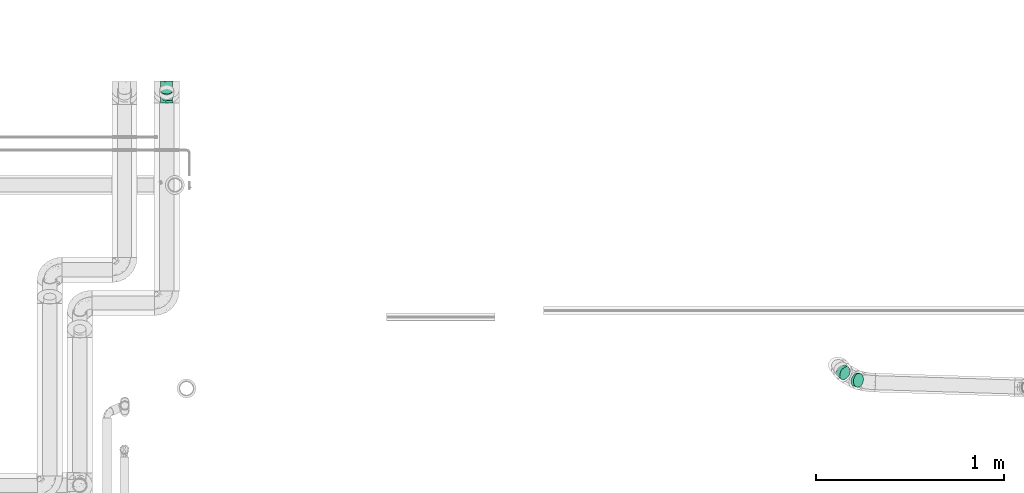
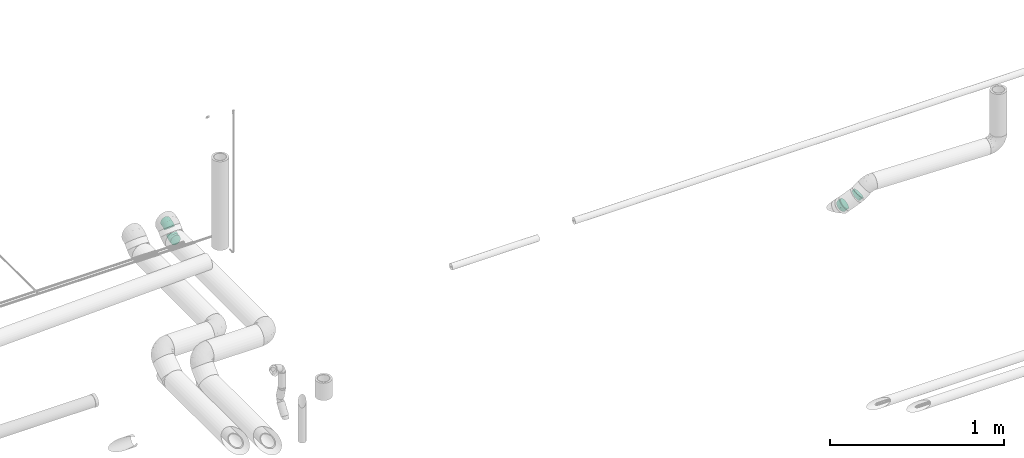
# One storey, part 139 of 156: 4 flow fittings.
"""IFC2X3 building model written with IfcOpenShell, lengths in millimetres."""

from ifc_helpers import new_model, entity, si_unit, converted_unit, derived_unit, direction, frame, origin_with_axes, place, context, subcontext, project, spatial, open_shell, surface_model, source, transform, mapped, type_object, element, save


model = new_model("IFC2X3")

# Units and contexts
model_context = context("Model", 3, precision=0.01, world=frame((0.0, 4.29681676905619e-09, 0.0)), true_north=direction((4.01073788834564e-13, 1.0)))
plan_context = context("Plan", 3, precision=0.01, world=frame((0.0, 4.29681676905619e-09, 0.0)), true_north=direction((4.01073788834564e-13, 1.0)))
body_context = subcontext(model_context, "Body", "Model", "MODEL_VIEW")
ifc_project = project(units=[converted_unit("PLANEANGLEUNIT", "DEGREE", entity("IfcPositiveLengthMeasure", 0.0174532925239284), si_unit("PLANEANGLEUNIT", "RADIAN"), dimensions=[0, 0, 0, 0, 0, 0, 0]), si_unit("AREAUNIT", "SQUARE_METRE"), si_unit("LENGTHUNIT", "METRE", prefix="MILLI"), si_unit("MASSUNIT", "GRAM", prefix="KILO"), si_unit("POWERUNIT", "WATT"), si_unit("PRESSUREUNIT", "PASCAL", prefix="KILO"), si_unit("FORCEUNIT", "NEWTON", prefix="KILO"), si_unit("ELECTRICVOLTAGEUNIT", "VOLT"), si_unit("ELECTRICCURRENTUNIT", "AMPERE"), si_unit("THERMODYNAMICTEMPERATUREUNIT", "DEGREE_CELSIUS"), si_unit("TIMEUNIT", "SECOND"), si_unit("VOLUMEUNIT", "CUBIC_METRE"), derived_unit("LINEARVELOCITYUNIT", [(si_unit("LENGTHUNIT", "METRE"), 1), (si_unit("TIMEUNIT", "SECOND"), -1)]), derived_unit("VOLUMETRICFLOWRATEUNIT", [(si_unit("VOLUMEUNIT", "CUBIC_METRE"), 1), (si_unit("TIMEUNIT", "SECOND"), -1)]), derived_unit("THERMALTRANSMITTANCEUNIT", [(si_unit("POWERUNIT", "WATT"), 1), (si_unit("THERMODYNAMICTEMPERATUREUNIT", "KELVIN"), -1), (si_unit("AREAUNIT", "SQUARE_METRE"), -1)]), derived_unit("SOUNDPRESSUREUNIT", [(si_unit("PRESSUREUNIT", "PASCAL"), 1)])], contexts=[model_context, plan_context])

# Site, building, storey
site_placement = place(None, frame((0.0, -4.29681676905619e-09, 0.0), z_axis=(0.0, 0.0, 1.0), x_axis=(1.0, 0.0, 0.0)))
site = spatial("IfcSite", under=ifc_project, at=site_placement, CompositionType="ELEMENT")
building_placement = place(site_placement, frame((0.0, 4.29681676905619e-09, 0.0), z_axis=(0.0, 0.0, 1.0), x_axis=(1.0, 0.0, 0.0)))
building = spatial("IfcBuilding", under=site, at=building_placement, Name="mc-building", CompositionType="ELEMENT")
storey_placement = place(building_placement, frame((0.0, 0.0, 205200.0), z_axis=(0.0, 0.0, 1.0), x_axis=(1.0, 0.0, 0.0)))
storey = spatial("IfcBuildingStorey", under=building, at=storey_placement, Name="Nivå D + 1,2 m", CompositionType="ELEMENT", Elevation=205200.0)

# Flow fittings
pipe_fitting_type = type_object("IfcPipeFittingType", Name="magi_pipe_elbow_short_001", PredefinedType="BEND")
shared_shape_1 = source(origin_with_axes(), body_context, "Body", "SurfaceModel", [
    surface_model("IfcShellBasedSurfaceModel", [(-9.17691, 18.75, -32.47595), (-9.17691, 9.70571, -36.22222), (-9.17691, 0.0, -37.5), (-9.17691, 26.5165, -26.5165), (-9.17691, 36.22222, -9.70571), (-9.17691, 32.47595, -18.75), (-9.17691, -26.5165, -26.5165), (-9.17691, -32.47595, -18.75), (-9.17691, -18.75, -32.47595), (-9.17691, -9.70571, -36.22222), (-9.17691, -36.22222, -9.70571), (-9.17691, -37.5, 0.0), (-9.17691, -36.22222, 9.70571), (-9.17691, 36.22222, 9.70571), (-9.17691, 37.5, 0.0), (-9.17691, 26.5165, 26.5165), (-9.17691, 32.47595, 18.75), (-9.17691, 9.70571, 36.22222), (-9.17691, 18.75, 32.47595), (-9.17691, 0.0, 37.5), (-9.17691, -32.47595, 18.75), (-9.17691, -26.5165, 26.5165), (-9.17691, -18.75, 32.47595), (-9.17691, -9.70571, 36.22222), (2.51284, 27.94685, -26.5165), (8.90618, 2.21263, -37.5), (6.56605, 11.63201, -36.22222), (4.38541, 20.40947, -32.47595), (1.07597, 33.73048, -18.75), (16.73639, -29.30523, -18.75), (-0.13537, 38.60631, 0.0), (11.2463, -7.20675, -36.22222), (15.29952, -23.5216, -26.5165), (13.42695, -15.98422, -32.47595), (17.94772, -34.18106, 0.0), (17.63964, -32.94098, -9.70571), (17.63964, -32.94098, 9.70571), (0.17272, 37.36623, -9.70571), (0.17272, 37.36623, 9.70571), (1.07597, 33.73048, 18.75), (2.51284, 27.94685, 26.5165), (4.38541, 20.40947, 32.47595), (6.56605, 11.63201, 36.22222), (15.29952, -23.5216, 26.5165), (16.73639, -29.30523, 18.75), (8.90618, 2.21263, 37.5), (11.2463, -7.20675, 36.22222), (13.42695, -15.98422, 32.47595), (-4.62242, 37.77761, 0.0), (4.48655, -36.66718, 0.0)], [open_shell([[[0, 1, 2]], [[3, 0, 2]], [[4, 5, 3]], [[6, 3, 2]], [[4, 3, 7]], [[8, 6, 9]], [[6, 2, 9]], [[10, 11, 7]], [[3, 6, 7]], [[7, 11, 12]], [[12, 4, 7]], [[13, 14, 15]], [[16, 13, 15]], [[17, 18, 15]], [[14, 17, 15]], [[19, 17, 14]], [[20, 21, 12]], [[22, 12, 21]], [[23, 19, 22]], [[12, 22, 19]], [[19, 14, 12]], [[4, 12, 14]], [[24, 25, 26]], [[24, 26, 27]], [[25, 28, 29]], [[28, 25, 24]], [[28, 30, 29]], [[31, 32, 33]], [[31, 25, 32]], [[29, 34, 35]], [[32, 25, 29]], [[29, 36, 34]], [[28, 37, 30]], [[30, 38, 39]], [[30, 39, 40]], [[41, 42, 30]], [[41, 30, 40]], [[42, 36, 29]], [[36, 43, 44]], [[43, 36, 45]], [[43, 46, 47]], [[46, 43, 45]], [[36, 42, 45]], [[42, 29, 30]], [[36, 20, 12]], [[47, 22, 21]], [[46, 23, 22]], [[45, 19, 23]], [[17, 19, 42]], [[43, 21, 20]], [[16, 15, 39]], [[18, 40, 15]], [[48, 13, 38]], [[48, 14, 13]], [[38, 13, 16]], [[41, 18, 17]], [[12, 11, 49]], [[47, 46, 22]], [[21, 43, 47]], [[46, 45, 23]], [[34, 36, 49]], [[20, 44, 43]], [[20, 36, 44]], [[39, 38, 16]], [[30, 48, 38]], [[41, 17, 42]], [[18, 41, 40]], [[39, 15, 40]], [[42, 19, 45]], [[12, 49, 36]], [[25, 2, 1]], [[31, 9, 2]], [[28, 3, 5]], [[3, 24, 0]], [[27, 1, 0]], [[4, 37, 5]], [[49, 11, 10]], [[35, 49, 10]], [[32, 6, 8]], [[10, 7, 35]], [[6, 29, 7]], [[33, 8, 9]], [[4, 14, 48]], [[48, 30, 37]], [[37, 28, 5]], [[27, 0, 24]], [[26, 1, 27]], [[3, 28, 24]], [[26, 25, 1]], [[33, 9, 31]], [[32, 8, 33]], [[7, 29, 35]], [[35, 34, 49]], [[29, 6, 32]], [[25, 31, 2]], [[4, 48, 37]]])]),
])
flow_fitting_1_placement = place(storey_placement, frame((334001.44758, 461087.74219, 4101.22159999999), z_axis=(0.709334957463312, 0.0249469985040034, -0.70442995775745), x_axis=(-0.700370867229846, 0.137698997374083, -0.700371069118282)))
element("IfcFlowFitting", 1, at=flow_fitting_1_placement, inside=storey, type_object=pipe_fitting_type, Name="magi_pipe_elbow_short_001", context=body_context, shape_type="MappedRepresentation", body=[
    mapped(shared_shape_1, transform((0.0, 0.0, 0.0), scale=1.0)),
])
shared_shape_2 = source(origin_with_axes(), body_context, "Body", "SurfaceModel", [
    surface_model("IfcShellBasedSurfaceModel", [(-12.50235, 18.75, -32.47595), (-12.50235, 9.70571, -36.22222), (-12.50235, 0.0, -37.5), (-12.50235, 26.5165, -26.5165), (-12.50235, 36.22222, -9.70571), (-12.50235, 32.47595, -18.75), (-12.50235, -26.5165, -26.5165), (-12.50235, -32.47595, -18.75), (-12.50235, -18.75, -32.47595), (-12.50235, -9.70571, -36.22222), (-12.50235, -36.22222, -9.70571), (-12.50235, -37.5, 0.0), (-12.50235, -36.22222, 9.70571), (-12.50235, 36.22222, 9.70571), (-12.50235, 37.5, 0.0), (-12.50235, 26.5165, 26.5165), (-12.50235, 32.47595, 18.75), (-12.50235, 9.70571, 36.22222), (-12.50235, 18.75, 32.47595), (-12.50235, 0.0, 37.5), (-12.50235, -32.47595, 18.75), (-12.50235, -26.5165, 26.5165), (-12.50235, -18.75, 32.47595), (-12.50235, -9.70571, 36.22222), (11.8263, 4.05554, -37.5), (8.67794, 13.23643, -36.22222), (5.74414, 21.79165, -32.47595), (3.22482, 29.13819, -26.5165), (20.42778, -21.02712, 26.5165), (1.29169, 34.77539, -18.75), (20.42778, -21.02712, -26.5165), (14.97466, -5.12535, -36.22222), (17.90846, -13.68058, -32.47595), (23.57613, -30.20801, -9.70571), (23.57613, -30.20801, 9.70571), (23.99062, -31.41669, 0.0), (22.36091, -26.66432, -18.75), (0.07646, 38.31908, -9.70571), (3.22482, 29.13819, 26.5165), (-0.33802, 39.52777, 0.0), (0.07646, 38.31908, 9.70571), (1.29169, 34.77539, 18.75), (5.74414, 21.79165, 32.47595), (8.67794, 13.23643, 36.22222), (22.36091, -26.66432, 18.75), (14.97466, -5.12535, 36.22222), (17.90846, -13.68058, 32.47595), (11.8263, 4.05554, 37.5), (-6.33626, 38.01042, 0.0), (5.99592, -35.96875, 0.0)], [open_shell([[[0, 1, 2]], [[3, 0, 2]], [[4, 5, 3]], [[6, 3, 2]], [[4, 3, 7]], [[8, 6, 9]], [[6, 2, 9]], [[10, 11, 7]], [[3, 6, 7]], [[7, 11, 12]], [[12, 4, 7]], [[13, 14, 15]], [[16, 13, 15]], [[17, 18, 15]], [[14, 17, 15]], [[19, 17, 14]], [[20, 21, 12]], [[22, 12, 21]], [[23, 19, 22]], [[12, 22, 19]], [[19, 14, 12]], [[4, 12, 14]], [[24, 25, 26]], [[24, 26, 27]], [[28, 27, 29]], [[24, 27, 30]], [[27, 28, 30]], [[31, 30, 32]], [[31, 24, 30]], [[33, 34, 35]], [[34, 36, 30]], [[36, 34, 33]], [[37, 38, 29]], [[39, 40, 41]], [[39, 41, 38]], [[38, 42, 43]], [[28, 29, 38]], [[28, 38, 43]], [[34, 28, 44]], [[30, 28, 34]], [[28, 45, 46]], [[45, 28, 47]], [[43, 47, 28]], [[38, 37, 39]], [[21, 20, 28]], [[46, 22, 21]], [[45, 23, 22]], [[47, 19, 23]], [[17, 19, 43]], [[12, 44, 20]], [[16, 15, 41]], [[18, 38, 15]], [[48, 13, 40]], [[48, 14, 13]], [[40, 13, 16]], [[42, 18, 17]], [[12, 11, 49]], [[46, 45, 22]], [[21, 28, 46]], [[45, 47, 23]], [[44, 12, 34]], [[20, 44, 28]], [[49, 35, 34]], [[41, 40, 16]], [[39, 48, 40]], [[42, 17, 43]], [[18, 42, 38]], [[41, 15, 38]], [[43, 19, 47]], [[12, 49, 34]], [[2, 31, 9]], [[2, 1, 24]], [[5, 29, 3]], [[3, 27, 0]], [[37, 5, 4]], [[0, 25, 1]], [[49, 11, 10]], [[33, 49, 10]], [[30, 6, 8]], [[10, 7, 33]], [[6, 36, 7]], [[32, 8, 9]], [[4, 14, 48]], [[48, 39, 37]], [[37, 29, 5]], [[27, 3, 29]], [[0, 26, 25]], [[0, 27, 26]], [[25, 24, 1]], [[32, 9, 31]], [[30, 8, 32]], [[7, 36, 33]], [[33, 35, 49]], [[36, 6, 30]], [[24, 31, 2]], [[4, 48, 37]]])]),
])
flow_fitting_2_placement = place(storey_placement, frame((333928.09222, 461129.09587, 4028.82000000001), z_axis=(0.361591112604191, -0.603222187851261, -0.710897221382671), x_axis=(-0.660534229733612, 0.372372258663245, -0.651945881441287)))
element("IfcFlowFitting", 2, at=flow_fitting_2_placement, inside=storey, type_object=pipe_fitting_type, Name="magi_pipe_elbow_short_001", context=body_context, shape_type="MappedRepresentation", body=[
    mapped(shared_shape_2, transform((0.0, 0.0, 0.0), scale=1.0)),
])
shared_shape_3 = source(origin_with_axes(), body_context, "Body", "SurfaceModel", [
    surface_model("IfcShellBasedSurfaceModel", [(-26.92396, 16.25, -28.14582), (-26.92396, 8.41162, -31.39259), (-26.92396, 0.0, -32.5), (-26.92396, -22.98097, -22.98097), (-26.92396, 31.39259, -8.41162), (-26.92396, 28.14582, -16.25), (-26.92396, 22.98097, -22.98097), (-26.92396, -32.5, 0.0), (-26.92396, -31.39259, 8.41162), (-26.92396, -16.25, -28.14582), (-26.92396, -8.41162, -31.39259), (-26.92396, -31.39259, -8.41162), (-26.92396, -28.14582, -16.25), (-26.92396, -22.98097, 22.98097), (-26.92396, 31.39259, 8.41162), (-26.92396, 28.14582, 16.25), (-26.92396, 16.25, 28.14582), (-26.92396, 22.98097, 22.98097), (-26.92396, 0.0, 32.5), (-26.92396, 8.41162, 31.39259), (-26.92396, -28.14582, 16.25), (-26.92396, -8.41162, 31.39259), (-26.92396, -16.25, 28.14582), (-26.92396, 32.5, 0.0), (19.03807, 19.03815, -32.5), (13.09015, 24.98605, -31.39259), (7.54757, 30.52861, -28.14582), (2.78804, 35.28812, -22.98097), (41.23603, -3.15972, 8.41162), (35.28811, 2.78818, -22.98097), (-0.86407, 38.94021, -16.25), (24.986, 13.09025, -31.39259), (30.52858, 7.54768, -28.14582), (38.94021, -0.86392, -16.25), (42.01909, -3.94278, 0.0), (41.23603, -3.15972, -8.41162), (-3.15988, 41.23602, -8.41162), (-3.15988, 41.23602, 8.41162), (-0.86407, 38.94021, 16.25), (7.54757, 30.52861, 28.14582), (2.78804, 35.28812, 22.98097), (19.03807, 19.03815, 32.5), (13.09015, 24.98605, 31.39259), (35.28811, 2.78818, 22.98097), (38.94021, -0.86392, 16.25), (30.52858, 7.54768, 28.14582), (24.986, 13.09025, 31.39259), (-3.94294, 42.01907, 0.0), (8.27756, -19.98375, 18.11126), (-7.19017, -18.36825, 25.07827), (-10.49471, -24.85635, 19.03), (-10.85895, -30.385, 0.0), (-1.68904, -29.17775, 0.0), (-6.93696, -29.94165, 5.54968), (24.99699, -10.15516, 19.03), (-12.87775, -11.91748, 29.70333), (3.33702, -8.05626, 29.29383), (0.96465, 19.53834, 30.33413), (5.87526, 15.38408, 32.0273), (-9.69985, -3.12918, 32.06943), (-3.09121, 7.46281, 32.3858), (-16.28403, 4.50357, 32.30277), (-9.23172, 22.28728, 26.53318), (-14.33248, 27.25604, 20.50969), (17.53288, 0.67905, 29.70333), (-12.48759, 13.52414, 30.38292), (12.5424, -21.27078, 12.80848), (-5.8274, -28.11742, 11.28641), (10.09044, -24.36041, 7.06388), (-13.38858, 32.3228, 13.35241), (26.07715, -16.26672, 5.54968), (29.1639, -13.80695, 0.0), (-13.01771, 34.82469, 6.82864), (24.00264, -15.76138, 11.28641), (9.07148, 4.64618, 32.06943), (18.07254, -7.90406, 25.07827), (-14.48671, 34.97393, 0.0), (5.45507, -13.16967, 25.91693), (10.06856, -24.30758, 0.0), (21.82615, -19.43742, 0.0), (-9.69985, -3.12918, -32.06943), (-6.93696, -29.94165, -5.54968), (10.09044, -24.36041, -7.06387), (9.07148, 4.64618, -32.06943), (-14.49783, 13.13355, -30.33413), (-15.03264, 6.72372, -32.0273), (-9.1384, 29.40751, -20.50969), (18.07254, -7.90406, -25.07827), (-13.38858, 32.3228, -13.35241), (24.00264, -15.76138, -11.28641), (-15.41993, 33.82966, -6.82864), (-0.73299, 18.39307, -30.38292), (-5.8274, -28.11742, -11.28641), (-9.23172, 22.28728, -26.53318), (-10.49471, -24.85635, -19.03), (-7.19017, -18.36825, -25.07827), (5.45507, -13.16967, -25.91693), (8.27756, -19.98375, -18.11126), (-12.87775, -11.91748, -29.70333), (17.53288, 0.67905, -29.70333), (3.33702, -8.05626, -29.29383), (26.07715, -16.26672, -5.54968), (8.33002, 14.69907, -32.30277), (6.17195, -23.90951, -12.80848), (24.99699, -10.15516, -19.03), (-3.09121, 7.46281, -32.3858)], [open_shell([[[0, 1, 2]], [[0, 2, 3]], [[4, 5, 6]], [[6, 0, 7]], [[6, 7, 8]], [[9, 3, 10]], [[3, 2, 10]], [[11, 7, 12]], [[3, 12, 7]], [[3, 7, 0]], [[8, 4, 6]], [[13, 14, 4]], [[15, 14, 16]], [[13, 16, 14]], [[17, 15, 16]], [[16, 18, 19]], [[20, 13, 8]], [[8, 13, 4]], [[21, 18, 22]], [[16, 13, 22]], [[16, 22, 18]], [[23, 4, 14]], [[24, 25, 26]], [[24, 26, 27]], [[27, 28, 29]], [[24, 27, 29]], [[27, 30, 28]], [[31, 29, 32]], [[31, 24, 29]], [[33, 34, 35]], [[34, 33, 29]], [[29, 28, 34]], [[30, 36, 28]], [[28, 36, 37]], [[38, 28, 37]], [[39, 28, 38]], [[39, 38, 40]], [[41, 39, 42]], [[28, 43, 44]], [[43, 28, 45]], [[45, 41, 46]], [[45, 28, 39]], [[39, 41, 45]], [[37, 36, 47]], [[48, 49, 50]], [[51, 52, 53]], [[22, 13, 49]], [[44, 43, 54]], [[55, 49, 56]], [[50, 49, 13]], [[42, 57, 58]], [[21, 22, 55]], [[59, 60, 61]], [[18, 21, 59]], [[17, 62, 63]], [[45, 46, 64]], [[61, 19, 18]], [[16, 65, 62]], [[8, 51, 53]], [[39, 40, 62]], [[66, 67, 68]], [[62, 17, 16]], [[13, 20, 50]], [[15, 63, 69]], [[14, 15, 69]], [[28, 70, 71]], [[72, 23, 14]], [[73, 66, 68]], [[67, 53, 68]], [[16, 19, 65]], [[41, 58, 74]], [[43, 45, 75]], [[38, 37, 69]], [[74, 46, 41]], [[48, 50, 67]], [[43, 75, 54]], [[60, 58, 57]], [[75, 45, 64]], [[20, 67, 50]], [[70, 28, 73]], [[48, 54, 75]], [[61, 65, 19]], [[48, 66, 54]], [[14, 69, 72]], [[20, 8, 67]], [[76, 72, 47]], [[49, 77, 56]], [[37, 72, 69]], [[56, 74, 59]], [[38, 69, 63]], [[56, 64, 74]], [[38, 63, 40]], [[60, 59, 74]], [[42, 39, 57]], [[57, 62, 65]], [[55, 59, 21]], [[15, 17, 63]], [[73, 28, 44]], [[73, 44, 54]], [[77, 48, 75]], [[40, 63, 62]], [[62, 57, 39]], [[60, 57, 65]], [[49, 55, 22]], [[59, 55, 56]], [[74, 64, 46]], [[75, 64, 56]], [[8, 7, 51]], [[68, 52, 78]], [[8, 53, 67]], [[52, 68, 53]], [[70, 68, 79]], [[71, 70, 79]], [[71, 34, 28]], [[68, 70, 73]], [[74, 58, 60]], [[41, 42, 58]], [[59, 61, 18]], [[65, 61, 60]], [[48, 77, 49]], [[75, 56, 77]], [[47, 72, 37]], [[72, 76, 23]], [[54, 66, 73]], [[67, 66, 48]], [[79, 68, 78]], [[10, 2, 80]], [[52, 81, 82]], [[24, 31, 83]], [[84, 85, 1]], [[5, 86, 6]], [[32, 29, 87]], [[88, 86, 5]], [[33, 35, 89]], [[4, 90, 88]], [[26, 25, 91]], [[11, 81, 51]], [[0, 84, 1]], [[81, 11, 92]], [[27, 93, 86]], [[92, 12, 94]], [[94, 3, 95]], [[3, 9, 95]], [[96, 97, 95]], [[11, 12, 92]], [[3, 94, 12]], [[98, 9, 10]], [[99, 83, 31]], [[36, 30, 88]], [[100, 98, 80]], [[23, 76, 90]], [[97, 94, 95]], [[47, 36, 90]], [[100, 80, 83]], [[27, 26, 93]], [[88, 5, 4]], [[30, 86, 88]], [[98, 95, 9]], [[91, 93, 26]], [[85, 80, 2]], [[93, 91, 84]], [[6, 93, 0]], [[35, 71, 101]], [[102, 25, 24]], [[99, 31, 32]], [[103, 89, 82]], [[29, 104, 87]], [[100, 99, 87]], [[29, 33, 104]], [[105, 102, 83]], [[104, 97, 87]], [[105, 83, 80]], [[101, 71, 79]], [[102, 91, 25]], [[105, 85, 84]], [[81, 92, 82]], [[97, 103, 94]], [[87, 96, 100]], [[33, 89, 104]], [[36, 88, 90]], [[97, 104, 89]], [[30, 27, 86]], [[6, 86, 93]], [[93, 84, 0]], [[105, 84, 91]], [[80, 98, 10]], [[95, 98, 100]], [[87, 99, 32]], [[83, 99, 100]], [[51, 81, 52]], [[51, 7, 11]], [[103, 82, 92]], [[101, 82, 89]], [[82, 79, 78]], [[35, 34, 71]], [[82, 101, 79]], [[35, 101, 89]], [[80, 85, 105]], [[2, 1, 85]], [[83, 102, 24]], [[91, 102, 105]], [[97, 96, 87]], [[95, 100, 96]], [[23, 90, 4]], [[90, 76, 47]], [[94, 103, 92]], [[89, 103, 97]], [[52, 82, 78]]])]),
])
flow_fitting_3_placement = place(storey_placement, frame((330320.29581, 462653.94239, 4235.5), z_axis=(0.999999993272, 0.0, -0.000115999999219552), x_axis=(0.0, -1.0, 0.0)))
element("IfcFlowFitting", 3, at=flow_fitting_3_placement, inside=storey, type_object=pipe_fitting_type, Name="magi_pipe_elbow_short_001", context=body_context, shape_type="MappedRepresentation", body=[
    mapped(shared_shape_3, transform((0.0, 0.0, 0.0), scale=1.0)),
])
shared_shape_4 = source(origin_with_axes(), body_context, "Body", "SurfaceModel", [
    surface_model("IfcShellBasedSurfaceModel", [(-26.92396, 16.25, -28.14582), (-26.92396, 8.41162, -31.39259), (-26.92396, 0.0, -32.5), (-26.92396, -22.98097, -22.98097), (-26.92396, 31.39259, -8.41162), (-26.92396, 28.14582, -16.25), (-26.92396, 22.98097, -22.98097), (-26.92396, -32.5, 0.0), (-26.92396, -31.39259, 8.41162), (-26.92396, -16.25, -28.14582), (-26.92396, -8.41162, -31.39259), (-26.92396, -31.39259, -8.41162), (-26.92396, -28.14582, -16.25), (-26.92396, -22.98097, 22.98097), (-26.92396, 31.39259, 8.41162), (-26.92396, 28.14582, 16.25), (-26.92396, 16.25, 28.14582), (-26.92396, 22.98097, 22.98097), (-26.92396, 0.0, 32.5), (-26.92396, 8.41162, 31.39259), (-26.92396, -28.14582, 16.25), (-26.92396, -8.41162, 31.39259), (-26.92396, -16.25, 28.14582), (-26.92396, 32.5, 0.0), (19.03807, 19.03815, -32.5), (13.09015, 24.98605, -31.39259), (7.54757, 30.52861, -28.14582), (24.986, 13.09025, -31.39259), (35.28811, 2.78818, -22.98097), (30.52858, 7.54768, -28.14582), (38.94021, -0.86392, -16.25), (42.01909, -3.94278, 0.0), (41.23603, -3.15972, -8.41162), (7.54757, 30.52861, 28.14582), (-0.86407, 38.94021, 16.25), (2.78804, 35.28812, 22.98097), (19.03807, 19.03815, 32.5), (13.09015, 24.98605, 31.39259), (41.23603, -3.15972, 8.41162), (35.28811, 2.78818, 22.98097), (38.94021, -0.86392, 16.25), (30.52858, 7.54768, 28.14582), (24.986, 13.09025, 31.39259), (-3.15988, 41.23602, 8.41162), (-3.15988, 41.23602, -8.41162), (-3.94294, 42.01907, 0.0), (8.27756, -19.98375, 18.11126), (-7.19017, -18.36825, 25.07827), (-10.49471, -24.85635, 19.03), (-10.85895, -30.385, 0.0), (-1.68904, -29.17775, 0.0), (-6.93696, -29.94165, 5.54968), (24.99699, -10.15516, 19.03), (-12.87775, -11.91748, 29.70333), (3.33702, -8.05626, 29.29383), (0.96465, 19.53834, 30.33413), (5.87526, 15.38408, 32.0273), (-9.69985, -3.12918, 32.06943), (-3.09121, 7.46281, 32.3858), (-16.28403, 4.50357, 32.30277), (-9.23172, 22.28728, 26.53318), (-14.33248, 27.25604, 20.50969), (17.53288, 0.67905, 29.70333), (-12.48759, 13.52414, 30.38292), (12.5424, -21.27078, 12.80848), (-5.8274, -28.11742, 11.28641), (10.09044, -24.36041, 7.06388), (-13.38858, 32.3228, 13.35241), (26.07715, -16.26672, 5.54968), (29.1639, -13.80695, 0.0), (-13.01771, 34.82469, 6.82864), (24.00264, -15.76138, 11.28641), (9.07148, 4.64618, 32.06943), (18.07254, -7.90406, 25.07827), (-14.48671, 34.97393, 0.0), (5.45507, -13.16967, 25.91693), (10.06856, -24.30758, 0.0), (21.82615, -19.43742, 0.0), (-9.69985, -3.12918, -32.06943), (-6.93696, -29.94165, -5.54968), (10.09044, -24.36041, -7.06387), (9.07148, 4.64618, -32.06943), (-14.49783, 13.13355, -30.33413), (-15.03264, 6.72372, -32.0273), (-9.1384, 29.40751, -20.50969), (18.07254, -7.90406, -25.07827), (-13.38858, 32.3228, -13.35241), (24.00264, -15.76138, -11.28641), (-15.41993, 33.82966, -6.82864), (-0.73299, 18.39307, -30.38292), (-5.8274, -28.11742, -11.28641), (2.78804, 35.28812, -22.98097), (-9.23172, 22.28728, -26.53318), (-10.49471, -24.85635, -19.03), (-7.19017, -18.36825, -25.07827), (5.45507, -13.16967, -25.91693), (8.27756, -19.98375, -18.11126), (-12.87775, -11.91748, -29.70333), (17.53288, 0.67905, -29.70333), (-0.86407, 38.94021, -16.25), (3.33702, -8.05626, -29.29383), (26.07715, -16.26672, -5.54968), (8.33002, 14.69907, -32.30277), (6.17195, -23.90951, -12.80848), (24.99699, -10.15516, -19.03), (-3.09121, 7.46281, -32.3858)], [open_shell([[[0, 1, 2]], [[0, 2, 3]], [[4, 5, 6]], [[6, 0, 7]], [[6, 7, 8]], [[9, 3, 10]], [[3, 2, 10]], [[11, 7, 12]], [[3, 12, 7]], [[3, 7, 0]], [[8, 4, 6]], [[13, 14, 4]], [[15, 14, 16]], [[13, 16, 14]], [[17, 15, 16]], [[16, 18, 19]], [[20, 13, 8]], [[8, 13, 4]], [[21, 18, 22]], [[16, 13, 22]], [[16, 22, 18]], [[23, 4, 14]], [[24, 25, 26]], [[27, 28, 29]], [[27, 24, 28]], [[30, 31, 32]], [[31, 30, 28]], [[33, 34, 35]], [[36, 33, 37]], [[38, 39, 40]], [[41, 36, 42]], [[43, 44, 45]], [[46, 47, 48]], [[49, 50, 51]], [[22, 13, 47]], [[40, 39, 52]], [[53, 47, 54]], [[48, 47, 13]], [[37, 55, 56]], [[21, 22, 53]], [[57, 58, 59]], [[18, 21, 57]], [[17, 60, 61]], [[41, 42, 62]], [[59, 19, 18]], [[16, 63, 60]], [[8, 49, 51]], [[33, 35, 60]], [[64, 65, 66]], [[60, 17, 16]], [[13, 20, 48]], [[15, 61, 67]], [[14, 15, 67]], [[38, 68, 69]], [[70, 23, 14]], [[71, 64, 66]], [[65, 51, 66]], [[16, 19, 63]], [[36, 56, 72]], [[39, 41, 73]], [[34, 43, 67]], [[72, 42, 36]], [[46, 48, 65]], [[39, 73, 52]], [[58, 56, 55]], [[73, 41, 62]], [[20, 65, 48]], [[68, 38, 71]], [[46, 52, 73]], [[59, 63, 19]], [[46, 64, 52]], [[14, 67, 70]], [[20, 8, 65]], [[74, 70, 45]], [[47, 75, 54]], [[43, 70, 67]], [[54, 72, 57]], [[34, 67, 61]], [[54, 62, 72]], [[34, 61, 35]], [[58, 57, 72]], [[37, 33, 55]], [[55, 60, 63]], [[53, 57, 21]], [[15, 17, 61]], [[71, 38, 40]], [[71, 40, 52]], [[75, 46, 73]], [[35, 61, 60]], [[60, 55, 33]], [[58, 55, 63]], [[47, 53, 22]], [[57, 53, 54]], [[72, 62, 42]], [[73, 62, 54]], [[8, 7, 49]], [[66, 50, 76]], [[8, 51, 65]], [[50, 66, 51]], [[68, 66, 77]], [[69, 68, 77]], [[69, 31, 38]], [[66, 68, 71]], [[72, 56, 58]], [[36, 37, 56]], [[57, 59, 18]], [[63, 59, 58]], [[46, 75, 47]], [[73, 54, 75]], [[45, 70, 43]], [[70, 74, 23]], [[52, 64, 71]], [[65, 64, 46]], [[77, 66, 76]], [[10, 2, 78]], [[50, 79, 80]], [[24, 27, 81]], [[82, 83, 1]], [[5, 84, 6]], [[29, 28, 85]], [[86, 84, 5]], [[30, 32, 87]], [[4, 88, 86]], [[26, 25, 89]], [[11, 79, 49]], [[0, 82, 1]], [[79, 11, 90]], [[91, 92, 84]], [[90, 12, 93]], [[93, 3, 94]], [[3, 9, 94]], [[95, 96, 94]], [[11, 12, 90]], [[3, 93, 12]], [[97, 9, 10]], [[98, 81, 27]], [[44, 99, 86]], [[100, 97, 78]], [[23, 74, 88]], [[96, 93, 94]], [[45, 44, 88]], [[100, 78, 81]], [[91, 26, 92]], [[86, 5, 4]], [[99, 84, 86]], [[97, 94, 9]], [[89, 92, 26]], [[83, 78, 2]], [[92, 89, 82]], [[6, 92, 0]], [[32, 69, 101]], [[102, 25, 24]], [[98, 27, 29]], [[103, 87, 80]], [[28, 104, 85]], [[100, 98, 85]], [[28, 30, 104]], [[105, 102, 81]], [[104, 96, 85]], [[105, 81, 78]], [[101, 69, 77]], [[102, 89, 25]], [[105, 83, 82]], [[79, 90, 80]], [[96, 103, 93]], [[85, 95, 100]], [[30, 87, 104]], [[44, 86, 88]], [[96, 104, 87]], [[99, 91, 84]], [[6, 84, 92]], [[92, 82, 0]], [[105, 82, 89]], [[78, 97, 10]], [[94, 97, 100]], [[85, 98, 29]], [[81, 98, 100]], [[49, 79, 50]], [[49, 7, 11]], [[103, 80, 90]], [[101, 80, 87]], [[80, 77, 76]], [[32, 31, 69]], [[80, 101, 77]], [[32, 101, 87]], [[78, 83, 105]], [[2, 1, 83]], [[81, 102, 24]], [[89, 102, 105]], [[96, 95, 85]], [[94, 100, 95]], [[23, 88, 4]], [[88, 74, 45]], [[93, 103, 90]], [[87, 103, 96]], [[50, 80, 76]], [[28, 24, 26]], [[91, 99, 44]], [[31, 26, 91]], [[31, 91, 44]], [[26, 31, 28]], [[44, 39, 31]], [[44, 43, 39]], [[33, 43, 34]], [[41, 43, 33]], [[31, 39, 38]], [[41, 39, 43]], [[36, 41, 33]]])]),
])
flow_fitting_4_placement = place(storey_placement, frame((330320.28845, 462591.40261, 4172.95997999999), z_axis=(-0.9999999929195, 0.000118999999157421, -6.7762635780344e-21), x_axis=(-8.41455281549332e-05, -0.707105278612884, -0.707108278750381)))
element("IfcFlowFitting", 4, at=flow_fitting_4_placement, inside=storey, type_object=pipe_fitting_type, Name="magi_pipe_elbow_short_001", context=body_context, shape_type="MappedRepresentation", body=[
    mapped(shared_shape_4, transform((0.0, 0.0, 0.0), scale=1.0)),
])

save(model, "model.ifc")
